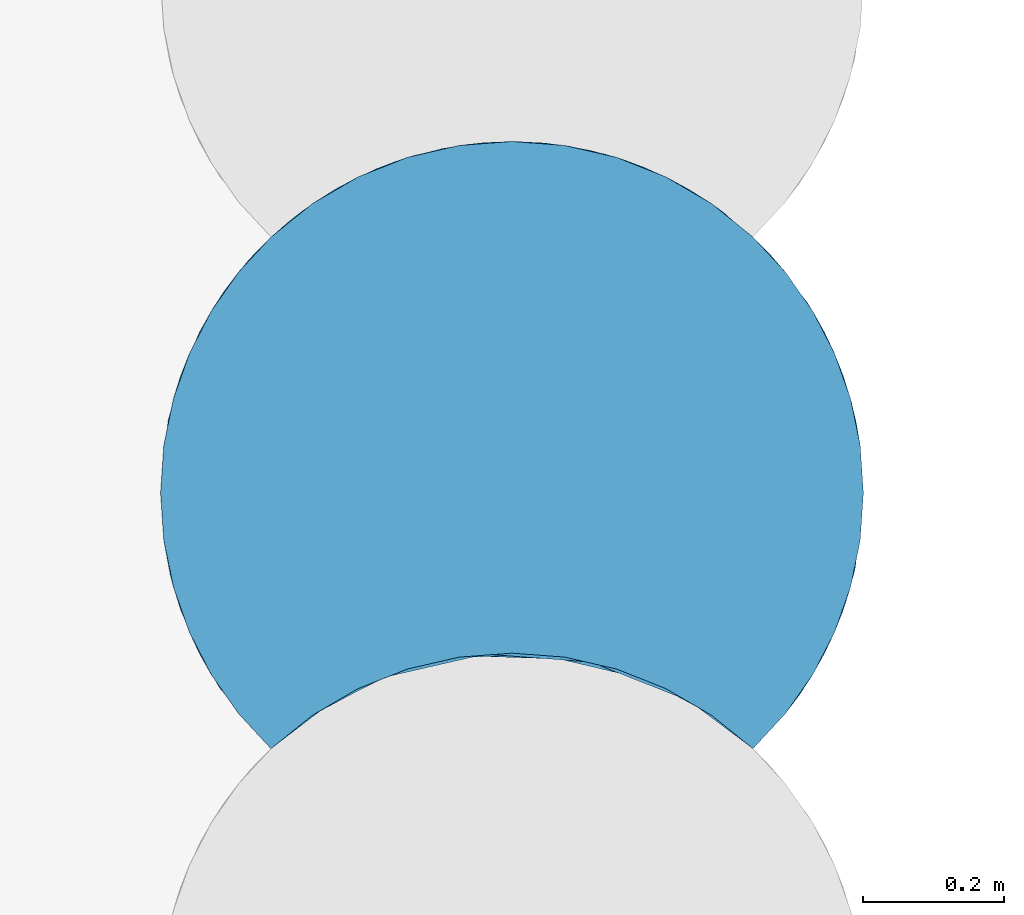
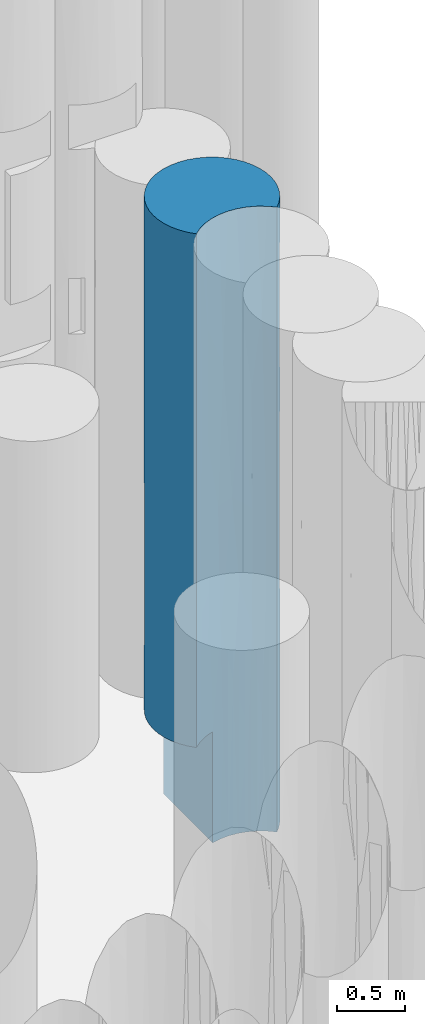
# One storey, part 66 of 104: 1 pile.
"""IFC2X3 building model written with IfcOpenShell, lengths in millimetres."""

from ifc_helpers import new_model, entity, si_unit, converted_unit, derived_unit, direction, frame, origin, place, context, subcontext, project, spatial, faceted_brep, source, transform, mapped, material, element, save


model = new_model("IFC2X3")

# Units and contexts
model_context = context("Model", 3, precision=0.01, world=origin(), true_north=direction((6.12303176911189e-17, 1.0)))
body_context = subcontext(model_context, "Body", "Model", "MODEL_VIEW")
ifc_project = project(units=[si_unit("LENGTHUNIT", "METRE", prefix="MILLI"), si_unit("AREAUNIT", "SQUARE_METRE", prefix="MILLI"), si_unit("VOLUMEUNIT", "CUBIC_METRE"), converted_unit("PLANEANGLEUNIT", "DEGREE", entity("IfcRatioMeasure", 0.0174532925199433), si_unit("PLANEANGLEUNIT", "RADIAN"), dimensions=[0, 0, 0, 0, 0, 0, 0]), si_unit("MASSUNIT", "GRAM", prefix="KILO"), derived_unit("MASSDENSITYUNIT", [(si_unit("MASSUNIT", "GRAM", prefix="KILO"), 1), (si_unit("LENGTHUNIT", "METRE"), -3)]), derived_unit("MOMENTOFINERTIAUNIT", [(si_unit("LENGTHUNIT", "METRE"), 4)]), si_unit("TIMEUNIT", "SECOND"), si_unit("FREQUENCYUNIT", "HERTZ"), si_unit("THERMODYNAMICTEMPERATUREUNIT", "DEGREE_CELSIUS"), derived_unit("THERMALTRANSMITTANCEUNIT", [(si_unit("MASSUNIT", "GRAM", prefix="KILO"), 1), (si_unit("THERMODYNAMICTEMPERATUREUNIT", "KELVIN"), -1), (si_unit("TIMEUNIT", "SECOND"), -3)]), derived_unit("VOLUMETRICFLOWRATEUNIT", [(si_unit("LENGTHUNIT", "METRE"), 3), (si_unit("TIMEUNIT", "SECOND"), -1)]), si_unit("ELECTRICCURRENTUNIT", "AMPERE"), si_unit("ELECTRICVOLTAGEUNIT", "VOLT"), si_unit("POWERUNIT", "WATT"), si_unit("FORCEUNIT", "NEWTON", prefix="KILO"), si_unit("ILLUMINANCEUNIT", "LUX"), si_unit("LUMINOUSFLUXUNIT", "LUMEN"), si_unit("LUMINOUSINTENSITYUNIT", "CANDELA"), derived_unit("USERDEFINED", [(si_unit("MASSUNIT", "GRAM", prefix="KILO"), -1), (si_unit("LENGTHUNIT", "METRE"), -2), (si_unit("TIMEUNIT", "SECOND"), 3), (si_unit("LUMINOUSFLUXUNIT", "LUMEN"), 1)]), derived_unit("LINEARVELOCITYUNIT", [(si_unit("LENGTHUNIT", "METRE"), 1), (si_unit("TIMEUNIT", "SECOND"), -1)]), si_unit("PRESSUREUNIT", "PASCAL"), derived_unit("USERDEFINED", [(si_unit("LENGTHUNIT", "METRE"), -2), (si_unit("MASSUNIT", "GRAM", prefix="KILO"), 1), (si_unit("TIMEUNIT", "SECOND"), -2)]), derived_unit("LINEARFORCEUNIT", [(si_unit("MASSUNIT", "GRAM", prefix="KILO"), 1), (si_unit("LENGTHUNIT", "METRE"), 1), (si_unit("TIMEUNIT", "SECOND"), -2), (si_unit("LENGTHUNIT", "METRE"), -1)]), derived_unit("PLANARFORCEUNIT", [(si_unit("MASSUNIT", "GRAM", prefix="KILO"), 1), (si_unit("LENGTHUNIT", "METRE"), 1), (si_unit("TIMEUNIT", "SECOND"), -2), (si_unit("LENGTHUNIT", "METRE"), -2)])], contexts=[model_context])

# Site, building, storey
site_placement = place(None, origin())
site = spatial("IfcSite", under=ifc_project, at=site_placement, Name="Theater aan de Parade", CompositionType="ELEMENT")
building_placement = place(site_placement, origin())
building = spatial("IfcBuilding", under=site, at=building_placement, Name="Theater aan de Parade", CompositionType="ELEMENT")
storey_placement = place(building_placement, frame((0.0, 0.0, -5520.0)))
storey = spatial("IfcBuildingStorey", under=building, at=storey_placement, Name="-2 kelder", CompositionType="ELEMENT", Elevation=-5520.0)

# Pile
ifc_material = material(Name="00_PBT_MAT_grout")
shared_shape = source(origin(), body_context, "Body", "Brep", [
    faceted_brep([(583.871954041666, 130.779363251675, 0.0), (510.487049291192, 137.516202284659, 0.0), (436.90935192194, 133.393347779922, 0.0), (364.737142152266, 118.500514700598, 0.0), (364.737142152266, 846.500514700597, 0.0), (436.915459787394, 861.394144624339, 0.0), (510.496193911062, 865.516039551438, 0.0), (583.883200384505, 858.777486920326, 0.0), (655.481623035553, 841.325228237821, 0.0), (723.73631667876, 813.538746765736, 0.0), (787.16483381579, 776.021910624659, 0.0), (844.395954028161, 729.577619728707, 0.0), (890.539747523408, 679.796155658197, 0.0), (929.517904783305, 624.211243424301, 0.0), (960.607316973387, 563.857580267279, 0.0), (983.235228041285, 499.844864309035, 0.0), (996.982552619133, 433.355455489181, 0.0), (1001.59527223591, 365.59527223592, 0.0), (996.982362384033, 297.833698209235, 0.0), (983.235035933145, 231.344990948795, 0.0), (960.607207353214, 167.332710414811, 0.0), (929.517907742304, 106.979305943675, 0.0), (890.53945920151, 51.3940319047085, 0.0), (844.383836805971, 1.59527223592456, 0.0), (787.156098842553, 48.0279881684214, 0.0), (723.725648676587, 85.54403700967, 0.0), (655.46993846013, 113.329007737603, 0.0), (946.088153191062, 594.562690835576, 1043.53969335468), (249.344536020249, 797.30068809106, 4463.17014318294), (158.80670766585, 729.595272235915, 5620.0), (217.483259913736, 777.032223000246, 5620.0), (985.213296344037, 492.534654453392, 1004.42933272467), (973.009053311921, 532.235744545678, 1936.08515935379), (463.858643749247, 864.169185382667, 4259.34974449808), (501.595272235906, 865.595272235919, 5620.0), (613.944699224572, 852.809399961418, 4275.67466699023), (204.660366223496, 767.875847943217, 1000.0), (181.161378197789, 749.420909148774, 2396.54211556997), (250.423769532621, 797.929490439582, 1914.18443114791), (868.306365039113, 705.481980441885, 1387.65374803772), (756.142699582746, 795.950482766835, 1012.06034171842), (959.032846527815, 567.463708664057, 2919.59475431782), (868.306364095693, 705.481981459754, 2809.99738836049), (925.761095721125, 630.327881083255, 3732.47138636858), (785.707284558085, 777.032223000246, 5620.0), (753.846007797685, 797.30068847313, 4800.53334556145), (720.545942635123, 815.106789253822, 5620.0), (890.546518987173, 679.787773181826, 5620.0), (946.091900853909, 594.555415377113, 4676.41921773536), (868.311762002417, 705.476157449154, 4258.14392244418), (973.010577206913, 532.23143349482, 3903.08947601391), (663.932568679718, 838.508162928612, 934.425623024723), (547.314016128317, 863.500681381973, 1387.25893523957), (91.3677288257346, 651.450764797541, 2236.39003135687), (158.806707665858, 729.595272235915, 1000.0), (112.658831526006, 679.806101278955, 1000.0), (539.331899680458, 864.169185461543, 3038.70326995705), (194.690734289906, 760.322525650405, 3534.12619714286), (125.271006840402, 694.80652246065, 3130.1171957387), (1001.59527223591, 365.59527223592, 5620.0), (991.238840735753, 466.833485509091, 4676.41593545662), (996.982276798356, 433.357471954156, 5620.0), (308.346723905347, 826.74058400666, 1000.0), (254.743436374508, 800.410372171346, 1000.0), (76.2812336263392, 628.479217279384, 4615.57643001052), (30.1799660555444, 532.23143007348, 4401.73359973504), (42.5806424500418, 563.851595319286, 5620.0), (1001.59527223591, 365.59527223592, 3123.07544949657), (1001.59527223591, 365.59527223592, 4058.46227525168), (983.235934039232, 499.842331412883, 5620.0), (660.984834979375, 839.509786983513, 3485.87169634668), (726.994212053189, 811.908299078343, 2859.16529902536), (632.292271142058, 848.211366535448, 2619.96955620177), (281.1516122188, 814.376502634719, 3301.86801593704), (403.358032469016, 855.849741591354, 3206.83737331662), (336.246493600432, 837.463666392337, 2200.06745595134), (57.0986427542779, 594.555413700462, 3310.00244835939), (134.878781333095, 705.476156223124, 4148.62385475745), (960.609902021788, 563.851595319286, 5620.0), (929.522999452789, 624.202813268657, 5620.0), (457.377813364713, 863.636250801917, 2181.17722905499), (350.648106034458, 842.265968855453, 4149.82848767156), (844.383836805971, 729.595272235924, 5620.0), (803.352544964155, 764.271266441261, 3201.16233092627), (650.395275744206, 842.940596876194, 5620.0), (576.853265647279, 859.89905982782, 5620.0), (922.600197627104, 635.326347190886, 2115.24967392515), (364.737142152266, 846.500514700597, 1000.0), (352.795268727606, 842.940596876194, 5620.0), (426.337278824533, 859.899059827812, 5620.0), (690.121589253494, 828.691188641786, 1836.52803985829), (991.55770847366, 465.278826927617, 2715.80955034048), (1001.59527223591, 365.59527223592, 1561.53772474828), (753.84600738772, 797.300688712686, 3910.60192042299), (73.6753405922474, 624.215712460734, 1000.0), (1.5952722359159, 365.59527223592, 2561.53770802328), (30.1797428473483, 532.230798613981, 2218.26464836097), (6.20628386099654, 433.342967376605, 1000.0), (794.694441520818, 770.679062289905, 2051.18962286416), (1.5952722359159, 365.59527223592, 1000.0), (6.20826767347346, 433.357471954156, 5620.0), (1.5952722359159, 365.59527223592, 4123.07541604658), (1.5952722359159, 365.59527223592, 5620.0), (42.582206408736, 563.855216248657, 1000.0), (19.953191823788, 499.837241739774, 1000.0), (112.644025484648, 679.787773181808, 5620.0), (19.9546104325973, 499.842331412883, 5620.0), (282.644601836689, 815.106789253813, 5620.0), (12.4025620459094, 468.9901091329, 3331.95278221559), (462.729871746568, 864.082464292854, 891.375751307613), (554.377817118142, 862.801469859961, 2217.52824525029), (73.6675450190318, 624.20281326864, 5620.0), (112.651806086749, 51.3931396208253, 1000.0), (158.80670766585, 1.59527223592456, 2561.53570825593), (57.0976622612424, 136.637034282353, 2043.51622610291), (57.0986428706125, 136.635130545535, 4223.52863500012), (30.1762797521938, 198.969543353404, 2936.01182275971), (86.0518049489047, 87.5240101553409, 3074.84642140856), (158.806707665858, 1.59527223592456, 4058.46169591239), (158.80670766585, 1.5952722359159, 4123.07141651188), (42.5776896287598, 167.345785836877, 1000.0), (73.6691815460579, 106.985023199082, 1000.0), (19.9506701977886, 231.362350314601, 1000.0), (17.9763530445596, 238.659300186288, 2004.37665206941), (6.20537477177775, 297.854224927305, 1000.0), (73.6675450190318, 106.987731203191, 5620.0), (112.644025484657, 51.4027712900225, 5620.0), (6.20826767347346, 297.833072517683, 5620.0), (15.2946867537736, 249.355259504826, 4493.1728295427), (42.5806424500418, 167.338949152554, 5620.0), (158.806707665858, 1.5952722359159, 5620.0), (158.80670766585, 1.59527223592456, 1000.0), (158.806707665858, 1.59527223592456, 2496.92339182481), (19.9546104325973, 231.348213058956, 5620.0), (576.847851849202, 131.899884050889, 5620.0), (650.386060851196, 114.943469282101, 5620.0), (720.534584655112, 87.1123213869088, 5620.0), (785.695330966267, 49.040477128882, 5620.0), (844.383836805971, 1.5952722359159, 5620.0), (890.539459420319, 51.3940321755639, 5620.0), (929.517907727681, 106.979305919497, 5620.0), (960.607207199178, 167.332710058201, 5620.0), (983.235035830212, 231.344990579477, 5620.0), (996.982362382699, 297.833698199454, 5620.0), (217.495213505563, 49.040477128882, 5620.0), (282.655959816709, 87.1123213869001, 5620.0), (352.804483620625, 114.943469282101, 5620.0), (426.342692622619, 131.899884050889, 5620.0), (501.595272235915, 137.59527223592, 5620.0), (547.303785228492, 135.501620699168, 1387.23923645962), (663.92418335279, 110.51104128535, 934.401466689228), (844.383836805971, 1.5952722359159, 1561.53729567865), (756.132995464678, 67.9562224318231, 1012.04504322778), (234.87258907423, 60.512533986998, 2140.44524555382), (326.888569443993, 106.079602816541, 2273.76174989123), (230.480195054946, 57.7102742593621, 3093.76199749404), (317.204382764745, 102.353273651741, 3595.66345784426), (417.235772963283, 130.427368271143, 3000.25703825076), (220.920469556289, 51.3846572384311, 1000.0), (290.148891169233, 90.6851396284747, 1000.0), (690.110387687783, 100.695748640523, 1836.49016171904), (775.575678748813, 55.8472738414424, 1951.92214500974), (613.937328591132, 124.811099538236, 4689.57401529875), (317.204382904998, 102.353273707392, 4637.58130436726), (240.363286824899, 63.9259535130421, 4116.62238173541), (753.834282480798, 69.3075395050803, 4689.57401410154), (685.98616065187, 102.353274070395, 3979.39544583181), (844.383836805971, 1.5952722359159, 3123.07513499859), (844.383836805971, 1.5952722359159, 4058.46216068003), (771.745206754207, 58.3315469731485, 3590.76885698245), (692.005096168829, 99.9199405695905, 2908.69057396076), (592.819727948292, 129.202939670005, 3801.56044210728), (539.329169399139, 136.169392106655, 3038.7102067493), (438.382663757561, 133.583342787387, 1893.88353969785), (463.861374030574, 136.169392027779, 4259.36317315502), (364.737142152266, 118.500514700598, 1000.0), (781.045655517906, 52.212545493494, 2773.42719735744), (598.023677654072, 128.208727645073, 2235.58557925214), (462.725547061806, 136.082127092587, 891.335236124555), (844.383836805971, 1.5952722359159, 2342.30621533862), (909.34885610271, 76.2217854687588, 2700.74005300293), (946.088091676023, 136.627734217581, 1935.96724965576), (988.22203301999, 250.728411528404, 3590.76885291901), (973.008888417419, 198.954333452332, 4676.46966098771), (946.088091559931, 136.627733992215, 3903.21291059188), (990.307935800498, 259.95469067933, 2342.3065587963), (973.008888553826, 198.954333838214, 1043.48167383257), (925.5547436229, 100.532323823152, 1004.36077692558), (910.973193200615, 78.5243440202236, 4676.47304371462), (961.351261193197, 169.064280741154, 2919.5900805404)], [[[0, 1, 2, 3, 4, 5, 6, 7, 8, 9, 10, 11, 12, 13, 14, 15, 16, 17, 18, 19, 20, 21, 22, 23, 24, 25, 26]], [[27, 14, 13]], [[28, 29, 30]], [[15, 31, 16]], [[32, 31, 27]], [[33, 34, 35]], [[36, 37, 38]], [[27, 12, 39]], [[31, 14, 27]], [[10, 9, 40]], [[41, 42, 43]], [[44, 45, 46]], [[47, 48, 49]], [[43, 48, 50]], [[51, 40, 9]], [[6, 52, 7]], [[53, 54, 55]], [[35, 56, 33]], [[51, 7, 52]], [[51, 9, 8]], [[57, 37, 58]], [[59, 60, 61]], [[38, 62, 63]], [[64, 65, 66]], [[15, 14, 31]], [[67, 50, 68]], [[43, 49, 48]], [[69, 60, 48]], [[61, 60, 69]], [[37, 53, 58]], [[70, 71, 72]], [[73, 74, 75]], [[58, 76, 77]], [[69, 48, 78]], [[79, 78, 48]], [[75, 74, 80]], [[28, 81, 73]], [[47, 49, 82]], [[82, 49, 45]], [[50, 48, 60]], [[83, 49, 42]], [[35, 84, 45]], [[47, 79, 48]], [[35, 85, 84]], [[86, 42, 41]], [[75, 80, 87]], [[11, 10, 40]], [[4, 87, 5]], [[12, 27, 13]], [[81, 88, 89]], [[51, 90, 40]], [[38, 75, 62]], [[91, 92, 32]], [[49, 93, 45]], [[54, 37, 36]], [[55, 94, 53]], [[12, 11, 39]], [[95, 96, 97]], [[98, 71, 83]], [[97, 99, 95]], [[100, 101, 102]], [[53, 96, 76]], [[103, 104, 96]], [[32, 41, 91]], [[96, 94, 103]], [[77, 64, 105]], [[39, 40, 98]], [[28, 73, 57]], [[100, 106, 65]], [[89, 34, 33]], [[34, 85, 35]], [[62, 75, 87]], [[59, 68, 60]], [[89, 33, 81]], [[30, 107, 28]], [[108, 96, 95]], [[97, 96, 104]], [[29, 28, 77]], [[74, 81, 33]], [[76, 65, 64]], [[75, 38, 73]], [[6, 5, 109]], [[100, 65, 101]], [[29, 77, 105]], [[108, 101, 65]], [[70, 93, 71]], [[45, 84, 46]], [[106, 66, 65]], [[72, 110, 56]], [[111, 64, 66]], [[108, 65, 76]], [[81, 107, 88]], [[109, 5, 87]], [[86, 27, 39]], [[17, 16, 92]], [[68, 50, 60]], [[98, 40, 90]], [[11, 40, 39]], [[45, 44, 82]], [[35, 45, 93]], [[71, 98, 90]], [[42, 39, 98]], [[41, 43, 50]], [[42, 49, 43]], [[91, 50, 67]], [[41, 32, 86]], [[27, 86, 32]], [[39, 42, 86]], [[53, 37, 54]], [[94, 96, 53]], [[96, 108, 76]], [[101, 108, 95]], [[33, 56, 74]], [[80, 74, 56]], [[72, 71, 90]], [[83, 71, 93]], [[50, 91, 41]], [[92, 91, 67]], [[110, 80, 56]], [[80, 52, 109]], [[32, 92, 31]], [[16, 31, 92]], [[73, 81, 74]], [[81, 28, 107]], [[7, 51, 8]], [[52, 90, 51]], [[110, 90, 52]], [[70, 56, 35]], [[56, 70, 72]], [[93, 70, 35]], [[90, 110, 72]], [[80, 110, 52]], [[76, 58, 53]], [[57, 58, 77]], [[28, 57, 77]], [[37, 57, 73]], [[49, 83, 93]], [[98, 83, 42]], [[36, 38, 63]], [[73, 38, 37]], [[105, 64, 111]], [[76, 64, 77]], [[80, 109, 87]], [[6, 109, 52]], [[112, 113, 114]], [[115, 116, 117]], [[117, 113, 118, 119]], [[114, 120, 121]], [[122, 120, 123]], [[124, 123, 95]], [[116, 101, 95]], [[125, 115, 126]], [[127, 102, 101]], [[120, 114, 123]], [[127, 101, 128]], [[116, 95, 123]], [[115, 129, 128]], [[99, 124, 95]], [[112, 114, 121]], [[119, 130, 126]], [[115, 125, 129]], [[128, 116, 115]], [[112, 131, 132, 113]], [[124, 122, 123]], [[129, 133, 128]], [[114, 116, 123]], [[126, 115, 119]], [[117, 116, 114]], [[117, 114, 113]], [[117, 119, 115]], [[127, 128, 133]], [[116, 128, 101]], [[134, 135, 136, 137, 138, 139, 140, 141, 142, 143, 59, 61, 69, 78, 79, 47, 82, 44, 46, 84, 85, 34, 89, 88, 107, 30, 29, 105, 111, 66, 106, 100, 102, 127, 133, 129, 125, 126, 130, 144, 145, 146, 147, 148]], [[149, 0, 150]], [[151, 152, 23]], [[153, 154, 155]], [[156, 154, 157]], [[153, 158, 159]], [[152, 160, 150]], [[161, 160, 152]], [[135, 134, 162]], [[150, 26, 25]], [[156, 163, 164]], [[135, 162, 165, 136]], [[131, 153, 132]], [[166, 165, 162]], [[167, 168, 169]], [[170, 171, 172]], [[157, 154, 173]], [[162, 174, 171]], [[144, 163, 145]], [[154, 175, 173]], [[147, 146, 163]], [[175, 3, 2]], [[165, 168, 138]], [[1, 0, 149]], [[132, 153, 155]], [[169, 176, 167]], [[150, 25, 152]], [[174, 147, 163]], [[149, 160, 177]], [[164, 163, 144]], [[134, 148, 162]], [[155, 164, 118]], [[170, 169, 166]], [[165, 137, 136]], [[147, 174, 148]], [[175, 154, 159]], [[163, 156, 174]], [[144, 130, 119, 118]], [[163, 146, 145]], [[172, 174, 157]], [[178, 2, 1]], [[175, 2, 178]], [[23, 152, 24]], [[24, 152, 25]], [[166, 162, 171]], [[174, 162, 148]], [[137, 165, 138]], [[168, 165, 169]], [[176, 161, 179]], [[166, 169, 165]], [[179, 161, 151]], [[177, 160, 170]], [[176, 169, 170]], [[151, 161, 152]], [[160, 161, 170]], [[166, 171, 170]], [[172, 171, 174]], [[156, 164, 155]], [[118, 164, 144]], [[156, 155, 154]], [[155, 118, 113, 132]], [[154, 153, 159]], [[158, 153, 131]], [[26, 150, 0]], [[150, 160, 149]], [[156, 157, 174]], [[173, 177, 172]], [[157, 173, 172]], [[178, 149, 173]], [[167, 176, 179]], [[161, 176, 170]], [[175, 178, 173]], [[149, 178, 1]], [[149, 177, 173]], [[172, 177, 170]], [[180, 151, 181]], [[182, 183, 184]], [[185, 186, 92]], [[186, 20, 19]], [[186, 187, 20]], [[21, 20, 187]], [[21, 187, 22]], [[188, 141, 140]], [[167, 184, 168]], [[183, 188, 184]], [[143, 142, 183]], [[143, 183, 68]], [[188, 183, 141]], [[23, 22, 151]], [[18, 17, 92]], [[59, 143, 68]], [[140, 139, 188]], [[186, 18, 92]], [[92, 67, 185]], [[185, 67, 182]], [[67, 68, 182]], [[181, 189, 180]], [[186, 181, 187]], [[138, 168, 188]], [[18, 186, 19]], [[142, 141, 183]], [[138, 188, 139]], [[168, 184, 188]], [[183, 182, 68]], [[189, 182, 184]], [[189, 185, 182]], [[186, 185, 181]], [[181, 151, 187]], [[22, 187, 151]], [[180, 184, 167]], [[185, 189, 181]], [[184, 180, 189]], [[180, 167, 179, 151]], [[55, 54, 36, 63, 62, 87, 175, 159, 158, 131, 112, 121, 120, 122, 124, 99, 97, 104, 103, 94]], [[87, 4, 3, 175]]]),
])
pile_placement = place(storey_placement, frame((41760.2628578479, 42487.2179922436, -3840.0)))
element("IfcPile", 1, at=pile_placement, inside=storey, material=ifc_material, Name="17_PBT_SFO_grondkering_rond:Ø1000 (grondkering)", ObjectType="17_PBT_SFO_grondkering_rond:Ø1000 (grondkering)", PredefinedType="NOTDEFINED", context=body_context, shape_type="MappedRepresentation", body=[
    mapped(shared_shape, transform((0.0, 0.0, 0.0), scale=1.0)),
])

save(model, "model.ifc")
